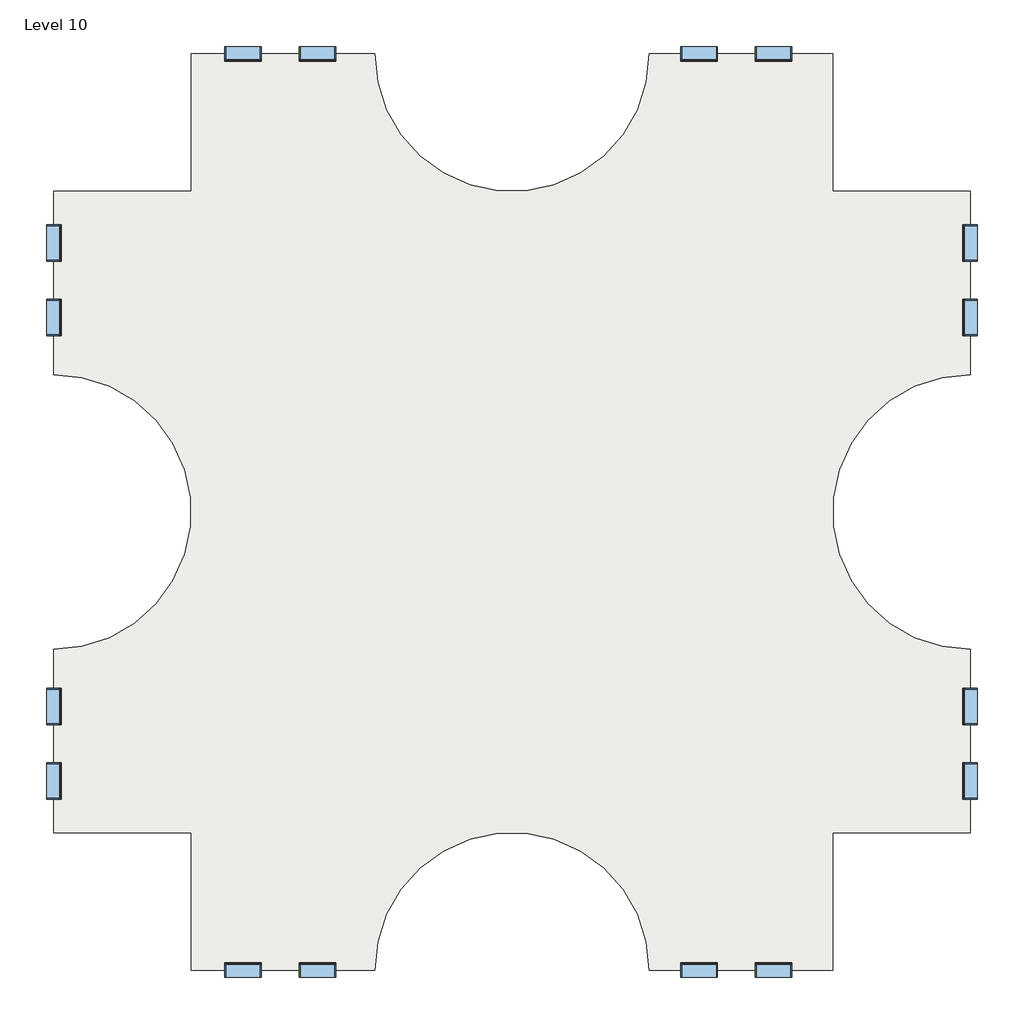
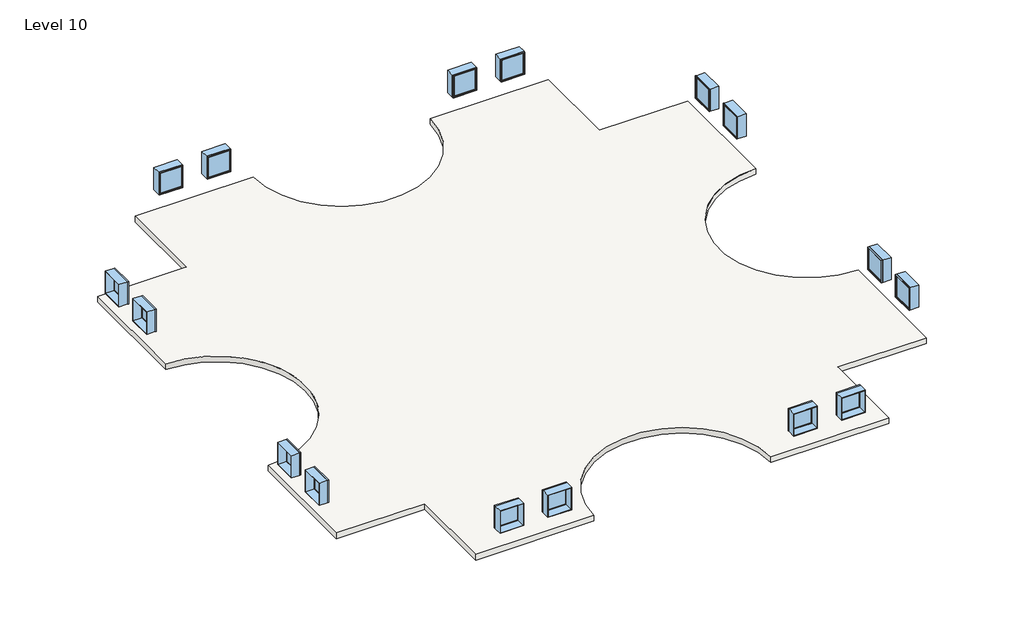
# One storey: 16 windows, 2 slabs.
"""IFC4 building model written with IfcOpenShell, lengths in millimetres."""

from ifc_helpers import new_model, si_unit, point, frame, frame_2d, origin, place, context, project, spatial, polyline, circle_curve, trimmed, segment, composite_curve, outline, extrude, transform, mapped, element, save
from components import window_d0035ecf, window_d434eb62

model = new_model("IFC4")

# Units and contexts
model_context = context("Model", 3, world=origin())
ifc_project = project(units=[si_unit("LENGTHUNIT", "METRE", prefix="MILLI")], contexts=[model_context])

# Site, building, storey
site = spatial("IfcSite", under=ifc_project)
building = spatial("IfcBuilding", under=site)
storey = spatial("IfcBuildingStorey", under=building, Name="Level 10", Elevation=27432.0)

# Slabs
placement = place(None, origin())
element("IfcSlab", 1, ObjectType="Generic - 12\"", at=placement, inside=storey, context=model_context, shape_type="SweptSolid", body=[
    extrude(outline(composite_curve([segment(polyline([(-7150.3629456, 4479.6634547), (-7150.3629456, 9051.6634547), (-1054.3629456, 9051.6634547)]), True, "CONTINUOUS"), segment(trimmed(circle_curve(frame_2d((3517.6370544, 9051.6634547)), 4572.0), [point((-1054.3629456, 9051.6634547))], [point((8089.6370544, 9051.6634547))], True, "CARTESIAN"), True, "CONTINUOUS"), segment(polyline([(8089.6370544, 9051.6634547), (14185.6370544, 9051.6634547), (14185.6370544, 4479.6634547), (18757.6370544, 4479.6634547), (18757.6370544, -1616.3365453)]), True, "CONTINUOUS"), segment(trimmed(circle_curve(frame_2d((18757.6370544, -6188.3365453)), 4572.0), [point((18757.6370544, -1616.3365453))], [point((18757.6370544, -10760.3365453))], True, "CARTESIAN"), True, "CONTINUOUS"), segment(polyline([(18757.6370544, -10760.3365453), (18757.6370544, -16856.3365453), (14185.6370544, -16856.3365453), (14185.6370544, -21428.3365453), (8089.6370544, -21428.3365453)]), True, "CONTINUOUS"), segment(trimmed(circle_curve(frame_2d((3517.6370544, -21428.3365453)), 4572.0), [point((8089.6370544, -21428.3365453))], [point((-1054.3629456, -21428.3365453))], True, "CARTESIAN"), True, "CONTINUOUS"), segment(polyline([(-1054.3629456, -21428.3365453), (-7150.3629456, -21428.3365453), (-7150.3629456, -16856.3365453), (-11722.3629456, -16856.3365453), (-11722.3629456, -10760.3365453)]), True, "CONTINUOUS"), segment(trimmed(circle_curve(frame_2d((-11722.3629456, -6188.3365453)), 4572.0), [point((-11722.3629456, -10760.3365453))], [point((-11722.3629456, -1616.3365453))], True, "CARTESIAN"), True, "CONTINUOUS"), segment(polyline([(-11722.3629456, -1616.3365453), (-11722.3629456, 4479.6634547), (-7150.3629456, 4479.6634547)]), True, "CONTINUOUS")], self_intersect=False)), frame((0.0, 0.0, 27127.2), z_axis=(0.0, 0.0, 1.0), x_axis=(1.0, 0.0, 0.0)), (0.0, 0.0, 1.0), 304.8),
])
element("IfcSlab", 2, ObjectType="Generic - 12\"", at=placement, inside=storey, context=model_context, shape_type="SweptSolid", body=[
    extrude(outline(composite_curve([segment(polyline([(-7150.3629456, 4479.6634547), (-7150.3629456, 9051.6634547), (-1054.3629456, 9051.6634547)]), True, "CONTINUOUS"), segment(trimmed(circle_curve(frame_2d((3517.6370544, 9051.6634547)), 4572.0), [point((-1054.3629456, 9051.6634547))], [point((8089.6370544, 9051.6634547))], True, "CARTESIAN"), True, "CONTINUOUS"), segment(polyline([(8089.6370544, 9051.6634547), (14185.6370544, 9051.6634547), (14185.6370544, 4479.6634547), (18757.6370544, 4479.6634547), (18757.6370544, -1616.3365453)]), True, "CONTINUOUS"), segment(trimmed(circle_curve(frame_2d((18757.6370544, -6188.3365453)), 4572.0), [point((18757.6370544, -1616.3365453))], [point((18757.6370544, -10760.3365453))], True, "CARTESIAN"), True, "CONTINUOUS"), segment(polyline([(18757.6370544, -10760.3365453), (18757.6370544, -16856.3365453), (14185.6370544, -16856.3365453), (14185.6370544, -21428.3365453), (8089.6370544, -21428.3365453)]), True, "CONTINUOUS"), segment(trimmed(circle_curve(frame_2d((3517.6370544, -21428.3365453)), 4572.0), [point((8089.6370544, -21428.3365453))], [point((-1054.3629456, -21428.3365453))], True, "CARTESIAN"), True, "CONTINUOUS"), segment(polyline([(-1054.3629456, -21428.3365453), (-7150.3629456, -21428.3365453), (-7150.3629456, -16856.3365453), (-11722.3629456, -16856.3365453), (-11722.3629456, -10760.3365453)]), True, "CONTINUOUS"), segment(trimmed(circle_curve(frame_2d((-11722.3629456, -6188.3365453)), 4572.0), [point((-11722.3629456, -10760.3365453))], [point((-11722.3629456, -1616.3365453))], True, "CARTESIAN"), True, "CONTINUOUS"), segment(polyline([(-11722.3629456, -1616.3365453), (-11722.3629456, 4479.6634547), (-7150.3629456, 4479.6634547)]), True, "CONTINUOUS")], self_intersect=False)), frame((0.0, 0.0, 27127.2), z_axis=(0.0, 0.0, 1.0), x_axis=(1.0, 0.0, 0.0)), (0.0, 0.0, 1.0), 304.8),
])

# Windows
window_shape = window_d0035ecf(model_context)
element("IfcWindow", 3, ObjectType="Fixed : 48\" x 48\"", at=placement, inside=storey, context=model_context, shape_type="MappedRepresentation", body=[
    mapped(window_shape, transform((-11719.1879456, 247.3884547, 27432.0), x_axis=(0.0, -1.0, 0.0), y_axis=(1.0, 0.0, 0.0), z_axis=(0.0, 0.0, 1.0))),
])
element("IfcWindow", 4, ObjectType="Fixed : 48\" x 48\"", at=placement, inside=storey, context=model_context, shape_type="MappedRepresentation", body=[
    mapped(window_shape, transform((-5469.1993281, 9048.4884547, 27432.0), x_axis=(-1.0, 0.0, 0.0), y_axis=(0.0, -1.0, 0.0), z_axis=(0.0, 0.0, 1.0))),
])
element("IfcWindow", 5, ObjectType="Fixed : 48\" x 48\"", at=placement, inside=storey, context=model_context, shape_type="MappedRepresentation", body=[
    mapped(window_shape, transform((-11719.1879456, -15175.1729277, 27432.0), x_axis=(0.0, -1.0, 0.0), y_axis=(1.0, 0.0, 0.0), z_axis=(0.0, 0.0, 1.0))),
])
element("IfcWindow", 6, ObjectType="Fixed : 48\" x 48\"", at=placement, inside=storey, context=model_context, shape_type="MappedRepresentation", body=[
    mapped(window_shape, transform((-2918.0879456, -21425.1615453, 27432.0), x_axis=(1.0, 0.0, 0.0), y_axis=(0.0, 1.0, 0.0), z_axis=(0.0, 0.0, 1.0))),
])
element("IfcWindow", 7, ObjectType="Fixed : 48\" x 48\"", at=placement, inside=storey, context=model_context, shape_type="MappedRepresentation", body=[
    mapped(window_shape, transform((18754.4620544, 2798.4998372, 27432.0), x_axis=(0.0, 1.0, 0.0), y_axis=(-1.0, 0.0, 0.0), z_axis=(0.0, 0.0, 1.0))),
])
element("IfcWindow", 8, ObjectType="Fixed : 48\" x 48\"", at=placement, inside=storey, context=model_context, shape_type="MappedRepresentation", body=[
    mapped(window_shape, transform((9705.7120544, 9048.4884547, 27432.0), x_axis=(-1.0, 0.0, 0.0), y_axis=(0.0, -1.0, 0.0), z_axis=(0.0, 0.0, 1.0))),
])
element("IfcWindow", 9, ObjectType="Fixed : 48\" x 48\"", at=placement, inside=storey, context=model_context, shape_type="MappedRepresentation", body=[
    mapped(window_shape, transform((18754.4620544, -12624.0615453, 27432.0), x_axis=(0.0, 1.0, 0.0), y_axis=(-1.0, 0.0, 0.0), z_axis=(0.0, 0.0, 1.0))),
])
element("IfcWindow", 10, ObjectType="Fixed : 48\" x 48\"", at=placement, inside=storey, context=model_context, shape_type="MappedRepresentation", body=[
    mapped(window_shape, transform((12256.8234368, -21425.1615453, 27432.0), x_axis=(1.0, 0.0, 0.0), y_axis=(0.0, 1.0, 0.0), z_axis=(0.0, 0.0, 1.0))),
])
window_2_shape = window_d434eb62(model_context)
element("IfcWindow", 11, ObjectType="Fixed : 48\" x 48\"", at=placement, inside=storey, context=model_context, shape_type="MappedRepresentation", body=[
    mapped(window_2_shape, transform((-11719.1879456, 2798.4998372, 27432.0), x_axis=(0.0, 1.0, 0.0), y_axis=(-1.0, 0.0, 0.0), z_axis=(0.0, 0.0, 1.0))),
])
element("IfcWindow", 12, ObjectType="Fixed : 48\" x 48\"", at=placement, inside=storey, context=model_context, shape_type="MappedRepresentation", body=[
    mapped(window_2_shape, transform((-2918.0879456, 9048.4884547, 27432.0), x_axis=(1.0, 0.0, 0.0), y_axis=(0.0, 1.0, 0.0), z_axis=(0.0, 0.0, 1.0))),
])
element("IfcWindow", 13, ObjectType="Fixed : 48\" x 48\"", at=placement, inside=storey, context=model_context, shape_type="MappedRepresentation", body=[
    mapped(window_2_shape, transform((-11719.1879456, -12624.0615453, 27432.0), x_axis=(0.0, 1.0, 0.0), y_axis=(-1.0, 0.0, 0.0), z_axis=(0.0, 0.0, 1.0))),
])
element("IfcWindow", 14, ObjectType="Fixed : 48\" x 48\"", at=placement, inside=storey, context=model_context, shape_type="MappedRepresentation", body=[
    mapped(window_2_shape, transform((-5469.1993281, -21425.1615453, 27432.0), x_axis=(-1.0, 0.0, 0.0), y_axis=(0.0, -1.0, 0.0), z_axis=(0.0, 0.0, 1.0))),
])
element("IfcWindow", 15, ObjectType="Fixed : 48\" x 48\"", at=placement, inside=storey, context=model_context, shape_type="MappedRepresentation", body=[
    mapped(window_2_shape, transform((18754.4620544, 247.3884547, 27432.0), x_axis=(0.0, -1.0, 0.0), y_axis=(1.0, 0.0, 0.0), z_axis=(0.0, 0.0, 1.0))),
])
element("IfcWindow", 16, ObjectType="Fixed : 48\" x 48\"", at=placement, inside=storey, context=model_context, shape_type="MappedRepresentation", body=[
    mapped(window_2_shape, transform((12256.8234368, 9048.4884547, 27432.0), x_axis=(1.0, 0.0, 0.0), y_axis=(0.0, 1.0, 0.0), z_axis=(0.0, 0.0, 1.0))),
])
element("IfcWindow", 17, ObjectType="Fixed : 48\" x 48\"", at=placement, inside=storey, context=model_context, shape_type="MappedRepresentation", body=[
    mapped(window_2_shape, transform((18754.4620544, -15175.1729277, 27432.0), x_axis=(0.0, -1.0, 0.0), y_axis=(1.0, 0.0, 0.0), z_axis=(0.0, 0.0, 1.0))),
])
element("IfcWindow", 18, ObjectType="Fixed : 48\" x 48\"", at=placement, inside=storey, context=model_context, shape_type="MappedRepresentation", body=[
    mapped(window_2_shape, transform((9705.7120544, -21425.1615453, 27432.0), x_axis=(-1.0, 0.0, 0.0), y_axis=(0.0, -1.0, 0.0), z_axis=(0.0, 0.0, 1.0))),
])

save(model, "model.ifc")
